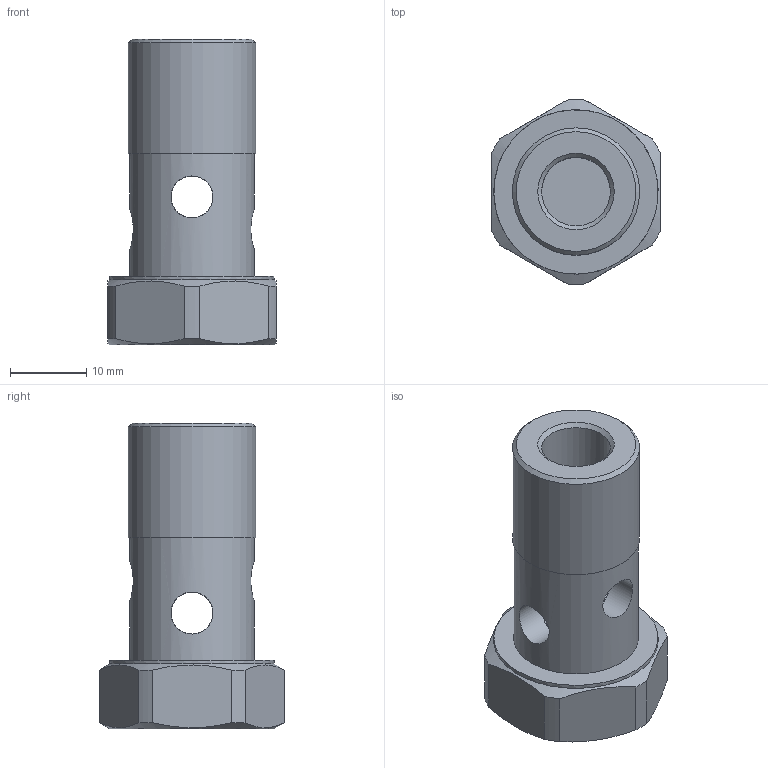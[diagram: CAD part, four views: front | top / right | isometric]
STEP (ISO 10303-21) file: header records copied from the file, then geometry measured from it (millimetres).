
FILE_DESCRIPTION(/* description */ ('Unknown'),/* implementation_level */ '2;1');
FILE_NAME(/* name */ 'VIFO38',/* time_stamp */ '2024-12-05T10:44:48+01:00',/* author */ ('Unknown'),/* organization */ ('Unknown'),/* preprocessor_version */ 'ST-DEVELOPER v19.4',/* originating_system */ 'Solid Edge',/* authorisation */ 'Unknown');
FILE_SCHEMA (('AUTOMOTIVE_DESIGN {1 0 10303 214 3 1 1}'));
Length unit declared in the file: millimetre
Products named in the file (1): VIFO38
Bounding box: 22 x 24.29 x 40 mm (x, y, z)
Volume: 8088.6 mm3; surface area: 3945.2 mm2
Topology: 1 solids, 1 shells, 29 faces, 81 edges, 55 vertices
Faces by surface type: cylinder 14, plane 11, cone 4
Full cylindrical faces by diameter (mm): 5.5 x4, 9 x1, 16.35 x1, 16.662 x1, 21.5 x1
Entity records: 1139 total; most frequent: CARTESIAN_POINT 300, DIRECTION 118, ORIENTED_EDGE 110, EDGE_CURVE 55, AXIS2_PLACEMENT_3D 53, EDGE_LOOP 52, FACE_BOUND 52, VERTEX_POINT 43
